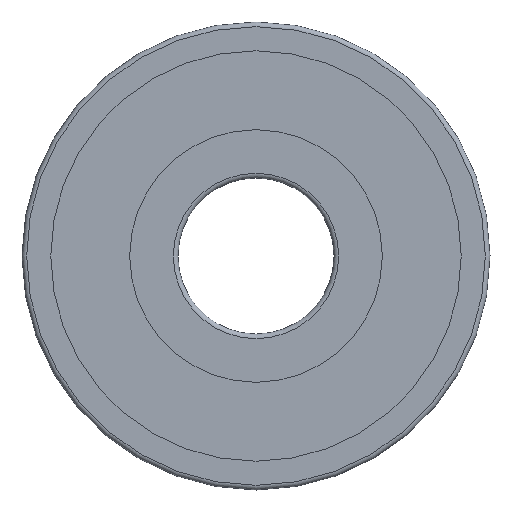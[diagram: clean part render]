
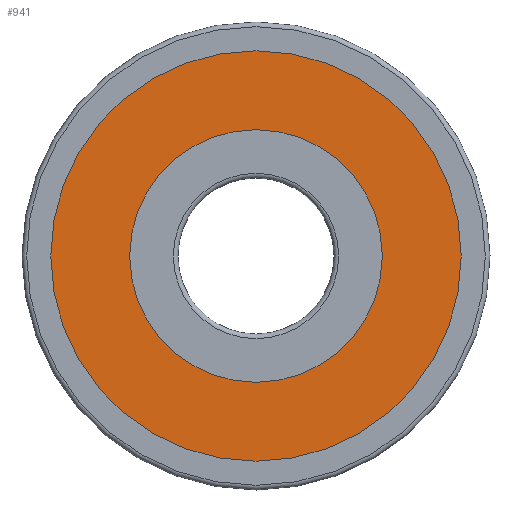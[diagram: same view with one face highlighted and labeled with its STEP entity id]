
A CAD part, left-side view. The second image highlights one B-rep face of the part: STEP entity #941.
In plain terms, the highlighted planar face has unit normal (-1, 0, 0).
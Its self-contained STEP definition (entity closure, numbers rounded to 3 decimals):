
#153=PLANE($,#1103);
#193=FACE_BOUND($,#332,.T.);
#194=FACE_BOUND($,#333,.T.);
#332=EDGE_LOOP($,(#874));
#333=EDGE_LOOP($,(#875));
#423=CIRCLE($,#1102,8.095);
#424=CIRCLE($,#1104,13.155);
#513=VERTEX_POINT($,#2398);
#514=VERTEX_POINT($,#2401);
#634=EDGE_CURVE($,#513,#513,#423,.T.);
#635=EDGE_CURVE($,#514,#514,#424,.T.);
#874=ORIENTED_EDGE($,*,*,#634,.T.);
#875=ORIENTED_EDGE($,*,*,#635,.F.);
#941=ADVANCED_FACE($,(#193,#194),#153,.T.);
#1102=AXIS2_PLACEMENT_3D($,#2399,#1419,#1420);
#1103=AXIS2_PLACEMENT_3D($,#2400,#1421,#1422);
#1104=AXIS2_PLACEMENT_3D($,#2402,#1423,#1424);
#1419=DIRECTION('center_axis',(1.,0.,0.));
#1420=DIRECTION('ref_axis',(0.,0.,-1.));
#1421=DIRECTION('center_axis',(-1.,0.,0.));
#1422=DIRECTION('ref_axis',(0.,0.,1.));
#1423=DIRECTION('center_axis',(1.,0.,0.));
#1424=DIRECTION('ref_axis',(0.,0.,-1.));
#2398=CARTESIAN_POINT('',(-4.5,8.095,0.));
#2399=CARTESIAN_POINT('Origin',(-4.5,0.,0.));
#2400=CARTESIAN_POINT('Origin',(-4.5,13.155,0.));
#2401=CARTESIAN_POINT('',(-4.5,13.155,0.));
#2402=CARTESIAN_POINT('Origin',(-4.5,0.,0.));
